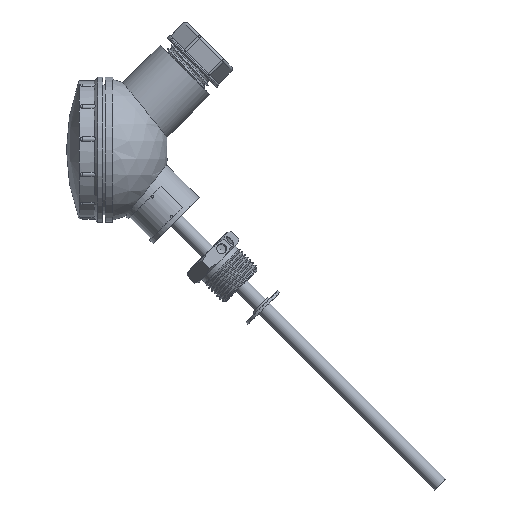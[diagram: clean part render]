
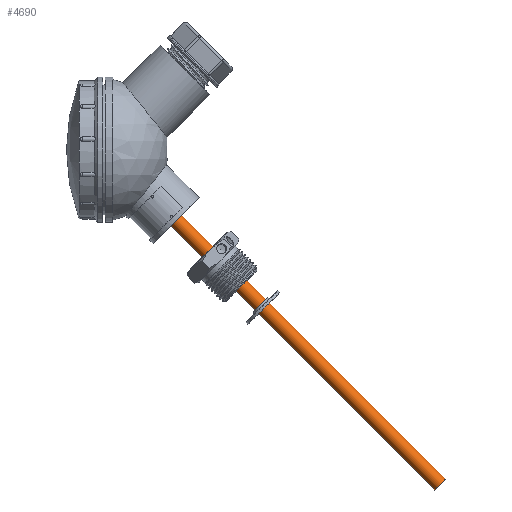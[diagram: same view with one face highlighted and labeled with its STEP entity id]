
A CAD part, left-side view. The second image highlights one B-rep face of the part: STEP entity #4690.
In plain terms, the highlighted cylindrical face has radius 3 mm (diameter 6 mm), a full revolution.
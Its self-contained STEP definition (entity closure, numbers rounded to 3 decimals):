
#4690=ADVANCED_FACE('',(#17950,#17952),#17954,.T.);
#17950=FACE_OUTER_BOUND('',#17951,.T.);
#17951=EDGE_LOOP('',(#20781));
#17952=FACE_OUTER_BOUND('',#17953,.T.);
#17953=EDGE_LOOP('',(#20782));
#17954=CYLINDRICAL_SURFACE('',#17955,3.);
#17955=AXIS2_PLACEMENT_3D('',#17956,#17957,#17958);
#17956=CARTESIAN_POINT('',(0.,0.,-31.));
#17957=DIRECTION('',(0.,0.,1.));
#17958=DIRECTION('',(1.,0.,0.));
#20781=ORIENTED_EDGE('',*,*,#21950,.F.);
#20782=ORIENTED_EDGE('',*,*,#21951,.T.);
#21950=EDGE_CURVE('',#23685,#23685,#23686,.T.);
#21951=EDGE_CURVE('',#23687,#23687,#23688,.T.);
#23685=VERTEX_POINT('',#85114);
#23686=CIRCLE('',#85115,3.);
#23687=VERTEX_POINT('',#85119);
#23688=CIRCLE('',#85120,3.);
#85114=CARTESIAN_POINT('',(3.,0.,120.8));
#85115=AXIS2_PLACEMENT_3D('',#85116,#85117,#85118);
#85116=CARTESIAN_POINT('',(0.,0.,120.8));
#85117=DIRECTION('',(0.,0.,1.));
#85118=DIRECTION('',(1.,0.,0.));
#85119=CARTESIAN_POINT('',(3.,0.,-31.));
#85120=AXIS2_PLACEMENT_3D('',#85121,#85122,#85123);
#85121=CARTESIAN_POINT('',(0.,0.,-31.));
#85122=DIRECTION('',(0.,0.,1.));
#85123=DIRECTION('',(1.,0.,0.));
